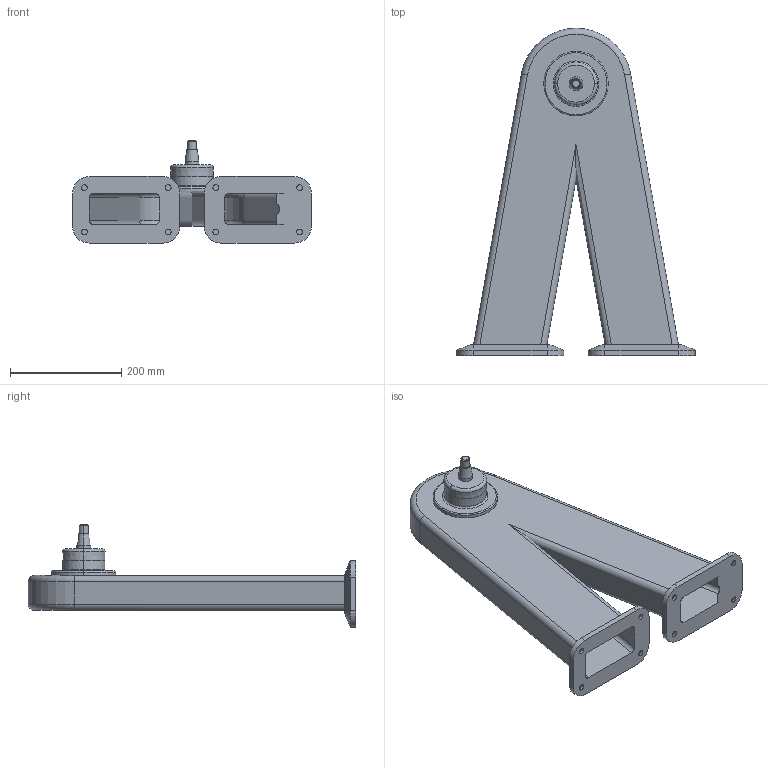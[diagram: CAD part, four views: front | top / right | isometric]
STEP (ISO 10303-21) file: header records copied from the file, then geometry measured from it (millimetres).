
FILE_DESCRIPTION (( 'STEP AP214' ), '1' );
FILE_NAME ('WP850_H490.STEP', '2014-09-08T12:56:57', ( '' ), ( '' ), 'SwSTEP 2.0', 'SolidWorks 2014', '' );
FILE_SCHEMA (( 'AUTOMOTIVE_DESIGN' ));
Length unit declared in the file: millimetre
Products named in the file (1): WP850_H490
Bounding box: 429.83 x 590 x 183.98 mm (x, y, z)
Volume: 1818824.3 mm3; surface area: 823662.1 mm2
Topology: 1 solids, 1 shells, 152 faces, 347 edges, 218 vertices
Faces by surface type: cylinder 76, plane 52, cone 14, torus 10
Entity records: 4347 total; most frequent: DIRECTION 791, CARTESIAN_POINT 778, ORIENTED_EDGE 694, EDGE_CURVE 347, AXIS2_PLACEMENT_3D 311, VERTEX_POINT 218, EDGE_LOOP 185, LINE 169
